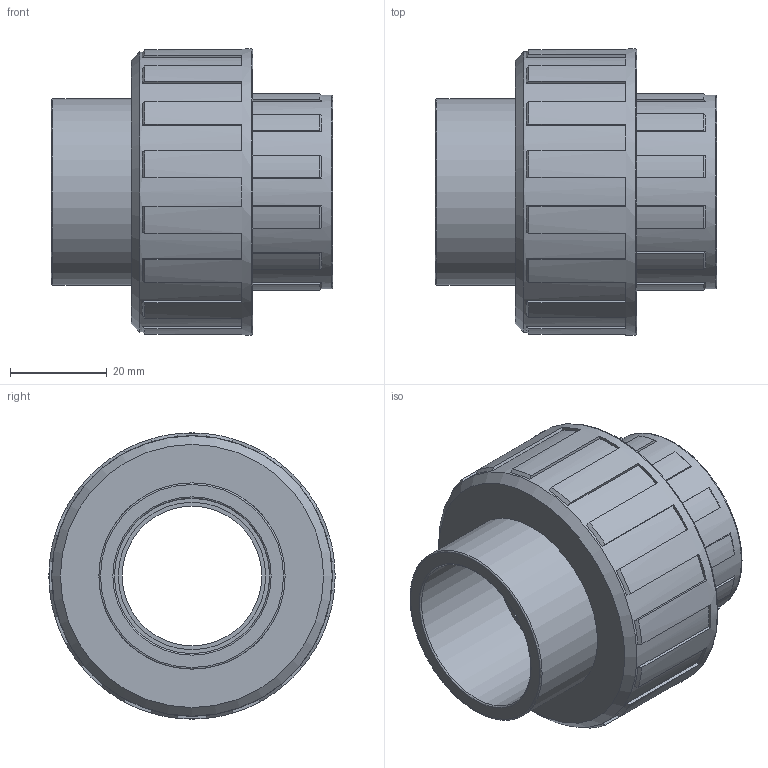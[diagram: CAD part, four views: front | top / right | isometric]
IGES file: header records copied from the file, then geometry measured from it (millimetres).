
Global section: file name: 050800032.ipt; native system: Autodesk Inventor 2015; preprocessor: unknown; author: Кирилл,,11,0; organization: 20171003.032032; date: 20171207.164904; units: millimetre
Bounding box: 58 x 59 x 59 mm (x, y, z)
Volume: 62286 mm3; surface area: 18748.8 mm2
Topology: 1 solids, 1 shells, 133 faces, 390 edges, 264 vertices
Faces by surface type: plane 79, cone 29, cylinder 16, revolution 9
Full cylindrical faces by diameter (mm): 38.4 x1, 40 x1, 57.82 x1, 59 x1
